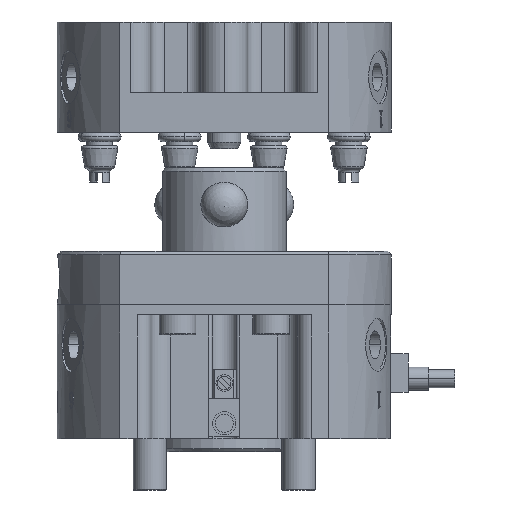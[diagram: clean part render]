
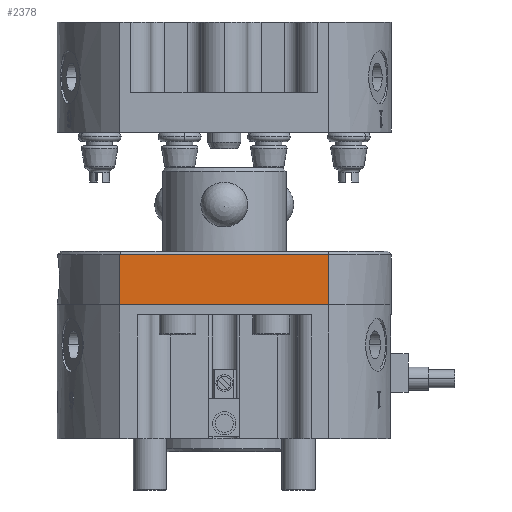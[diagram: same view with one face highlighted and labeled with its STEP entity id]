
A CAD part, front view. The second image highlights one B-rep face of the part: STEP entity #2378.
In plain terms, the highlighted planar face has unit normal (0, -1, 0).
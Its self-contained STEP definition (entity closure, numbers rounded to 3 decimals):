
#329 = DIRECTION ( 'NONE',  ( 1., 0., 0. ) ) ;
#2378 = ADVANCED_FACE ( 'NONE', ( #19847 ), #15764, .T. ) ;
#3835 = EDGE_CURVE ( 'NONE', #30885, #40446, #21080, .T. ) ;
#4026 = VECTOR ( 'NONE', #30175, 1000. ) ;
#5723 = ORIENTED_EDGE ( 'NONE', *, *, #33552, .F. ) ;
#5796 = DIRECTION ( 'NONE',  ( -1., 0., 0. ) ) ;
#11208 = DIRECTION ( 'NONE',  ( 0., -1., 0. ) ) ;
#13789 = VERTEX_POINT ( 'NONE', #53995 ) ;
#14471 = VERTEX_POINT ( 'NONE', #14978 ) ;
#14978 = CARTESIAN_POINT ( 'NONE',  ( -15.644, -19.5, -0.5 ) ) ;
#15764 = PLANE ( 'NONE',  #30163 ) ;
#17703 = DIRECTION ( 'NONE',  ( 0., 0., 1. ) ) ;
#17877 = CARTESIAN_POINT ( 'NONE',  ( -15.644, -19.5, -0.5 ) ) ;
#18357 = EDGE_CURVE ( 'NONE', #13789, #30885, #51741, .T. ) ;
#19447 = DIRECTION ( 'NONE',  ( 0., 0., -1. ) ) ;
#19847 = FACE_OUTER_BOUND ( 'NONE', #52470, .T. ) ;
#19919 = CARTESIAN_POINT ( 'NONE',  ( 15.644, -19.5, -8. ) ) ;
#21080 = LINE ( 'NONE', #21164, #4026 ) ;
#21164 = CARTESIAN_POINT ( 'NONE',  ( 15.644, -19.5, -8. ) ) ;
#21737 = CARTESIAN_POINT ( 'NONE',  ( -15.644, -19.5, -8. ) ) ;
#29548 = CARTESIAN_POINT ( 'NONE',  ( -15.644, -19.5, -8. ) ) ;
#29973 = ORIENTED_EDGE ( 'NONE', *, *, #18357, .T. ) ;
#30163 = AXIS2_PLACEMENT_3D ( 'NONE', #44645, #11208, #19447 ) ;
#30175 = DIRECTION ( 'NONE',  ( 0., 0., 1. ) ) ;
#30885 = VERTEX_POINT ( 'NONE', #19919 ) ;
#33552 = EDGE_CURVE ( 'NONE', #13789, #14471, #39585, .T. ) ;
#33610 = EDGE_CURVE ( 'NONE', #40446, #14471, #48156, .T. ) ;
#34126 = CARTESIAN_POINT ( 'NONE',  ( 15.644, -19.5, -0.5 ) ) ;
#39585 = LINE ( 'NONE', #21737, #42256 ) ;
#39874 = VECTOR ( 'NONE', #329, 1000. ) ;
#39906 = ORIENTED_EDGE ( 'NONE', *, *, #3835, .T. ) ;
#40446 = VERTEX_POINT ( 'NONE', #34126 ) ;
#42256 = VECTOR ( 'NONE', #17703, 1000. ) ;
#44645 = CARTESIAN_POINT ( 'NONE',  ( -15.644, -19.5, -8. ) ) ;
#48156 = LINE ( 'NONE', #17877, #49456 ) ;
#48162 = ORIENTED_EDGE ( 'NONE', *, *, #33610, .T. ) ;
#49456 = VECTOR ( 'NONE', #5796, 1000. ) ;
#51741 = LINE ( 'NONE', #29548, #39874 ) ;
#52470 = EDGE_LOOP ( 'NONE', ( #39906, #48162, #5723, #29973 ) ) ;
#53995 = CARTESIAN_POINT ( 'NONE',  ( -15.644, -19.5, -8. ) ) ;
